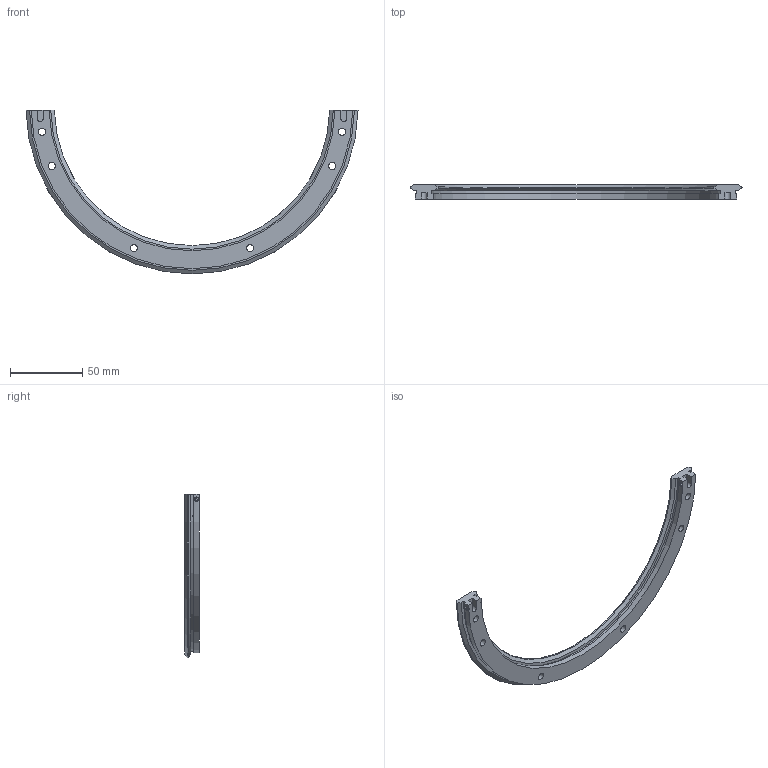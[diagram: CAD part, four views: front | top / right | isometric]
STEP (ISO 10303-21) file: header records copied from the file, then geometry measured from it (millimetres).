
FILE_DESCRIPTION( ( 'STEP AP203' ), '1' );
FILE_NAME( 'p:/temp/worker_32/temp/exporttempdir_3252_913_1bQY0/format_0/TR20 210 R180.stp', '2021-09-17T07:38:40', ( 'License CC BY-ND 4.0' ), ( 'CADENAS' ), ' ', 'PARTsolutions', ' ' );
FILE_SCHEMA( ( 'CONFIG_CONTROL_DESIGN' ) );
Length unit declared in the file: millimetre
Products named in the file (1): _TR20 210 R180
Bounding box: 229.59 x 10 x 113.31 mm (x, y, z)
Volume: 43176.4 mm3; surface area: 20645.3 mm2
Topology: 1 solids, 1 shells, 80 faces, 195 edges, 131 vertices
Faces by surface type: plane 52, cylinder 22, cone 4, torus 2
Full cylindrical faces by diameter (mm): 3 x4, 4.9 x6, 8 x6
Entity records: 2538 total; most frequent: CARTESIAN_POINT 640, DIRECTION 370, ORIENTED_EDGE 352, EDGE_CURVE 176, AXIS2_PLACEMENT_3D 129, VERTEX_POINT 129, EDGE_LOOP 122, LINE 112
